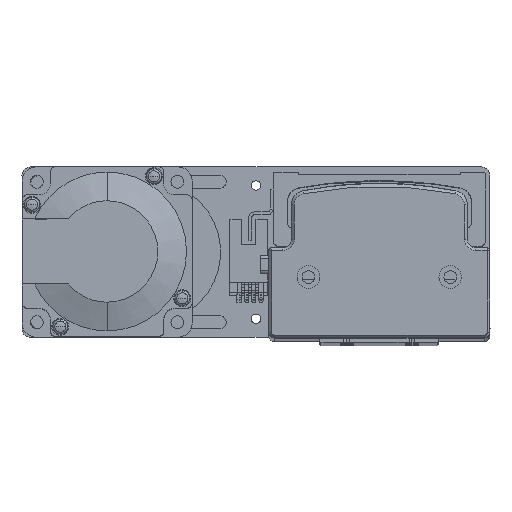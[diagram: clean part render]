
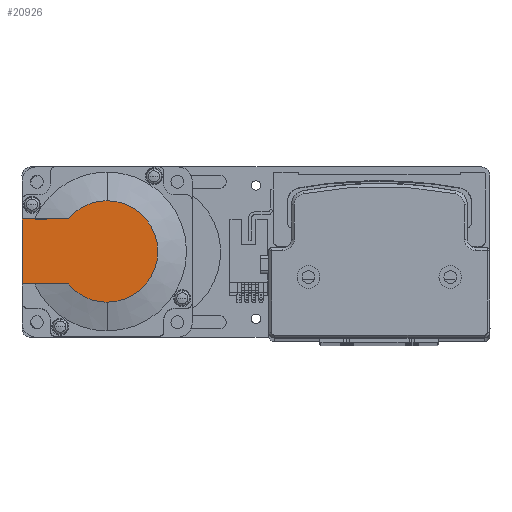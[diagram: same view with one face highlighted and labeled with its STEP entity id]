
A CAD part, top view. The second image highlights one B-rep face of the part: STEP entity #20926.
In plain terms, the highlighted planar face has unit normal (0, 0, 1) as drawn and (-1, 0, 0) by its records, which use the part's own axes.
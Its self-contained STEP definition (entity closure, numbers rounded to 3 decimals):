
#338 = CARTESIAN_POINT ( 'NONE',  ( -118.5, 30., 25. ) ) ;
#349 = AXIS2_PLACEMENT_3D ( 'NONE', #10441, #37283, #14281 ) ;
#701 = CIRCLE ( 'NONE', #43090, 17.881 ) ;
#1658 = CARTESIAN_POINT ( 'NONE',  ( -118.5, 13.735, -11.45 ) ) ;
#1947 = ORIENTED_EDGE ( 'NONE', *, *, #4487, .T. ) ;
#2421 = EDGE_CURVE ( 'NONE', #15849, #32418, #701, .T. ) ;
#2842 = DIRECTION ( 'NONE',  ( 0., 0., -1. ) ) ;
#4068 = AXIS2_PLACEMENT_3D ( 'NONE', #48868, #25843, #2842 ) ;
#4169 = VECTOR ( 'NONE', #7105, 1000. ) ;
#4487 = EDGE_CURVE ( 'NONE', #32418, #28822, #17335, .T. ) ;
#4646 = ORIENTED_EDGE ( 'NONE', *, *, #25140, .F. ) ;
#5339 = ORIENTED_EDGE ( 'NONE', *, *, #6171, .T. ) ;
#5460 = VECTOR ( 'NONE', #38320, 1000. ) ;
#6171 = EDGE_CURVE ( 'NONE', #33253, #15849, #15688, .T. ) ;
#7105 = DIRECTION ( 'NONE',  ( 0., -1., 0. ) ) ;
#7414 = VECTOR ( 'NONE', #11967, 1000. ) ;
#9290 = CARTESIAN_POINT ( 'NONE',  ( -118.5, 30., -11.45 ) ) ;
#10441 = CARTESIAN_POINT ( 'NONE',  ( -118.5, 0., 0. ) ) ;
#10821 = DIRECTION ( 'NONE',  ( -1., 0., 0. ) ) ;
#11967 = DIRECTION ( 'NONE',  ( 0., 0., 1. ) ) ;
#13197 = CARTESIAN_POINT ( 'NONE',  ( -118.5, 13.735, 11.45 ) ) ;
#13449 = CARTESIAN_POINT ( 'NONE',  ( -118.5, 0., 0. ) ) ;
#13820 = AXIS2_PLACEMENT_3D ( 'NONE', #33832, #10821, #37656 ) ;
#13930 = EDGE_CURVE ( 'NONE', #28822, #33536, #38447, .T. ) ;
#14281 = DIRECTION ( 'NONE',  ( 0., 0., -1. ) ) ;
#14865 = CARTESIAN_POINT ( 'NONE',  ( -118.5, 30., 11.45 ) ) ;
#15688 = LINE ( 'NONE', #22874, #5460 ) ;
#15849 = VERTEX_POINT ( 'NONE', #1658 ) ;
#17324 = DIRECTION ( 'NONE',  ( 0., 0., -1. ) ) ;
#17335 = CIRCLE ( 'NONE', #4068, 17.881 ) ;
#17696 = LINE ( 'NONE', #338, #7414 ) ;
#20926 = ADVANCED_FACE ( 'NONE', ( #37562 ), #33669, .T. ) ;
#22874 = CARTESIAN_POINT ( 'NONE',  ( -118.5, -8.941, -11.45 ) ) ;
#24267 = EDGE_CURVE ( 'NONE', #33253, #30539, #17696, .T. ) ;
#25140 = EDGE_CURVE ( 'NONE', #30539, #33536, #43876, .T. ) ;
#25843 = DIRECTION ( 'NONE',  ( -1., 0., 0. ) ) ;
#28822 = VERTEX_POINT ( 'NONE', #41295 ) ;
#30539 = VERTEX_POINT ( 'NONE', #14865 ) ;
#30629 = ORIENTED_EDGE ( 'NONE', *, *, #13930, .T. ) ;
#32418 = VERTEX_POINT ( 'NONE', #42307 ) ;
#33253 = VERTEX_POINT ( 'NONE', #9290 ) ;
#33536 = VERTEX_POINT ( 'NONE', #13197 ) ;
#33669 = PLANE ( 'NONE',  #13820 ) ;
#33832 = CARTESIAN_POINT ( 'NONE',  ( -118.5, -8.941, 0. ) ) ;
#34013 = CARTESIAN_POINT ( 'NONE',  ( -118.5, 0., 11.45 ) ) ;
#35107 = ORIENTED_EDGE ( 'NONE', *, *, #2421, .T. ) ;
#37283 = DIRECTION ( 'NONE',  ( -1., 0., 0. ) ) ;
#37562 = FACE_OUTER_BOUND ( 'NONE', #43120, .T. ) ;
#37656 = DIRECTION ( 'NONE',  ( 0., 0., 1. ) ) ;
#38320 = DIRECTION ( 'NONE',  ( 0., -1., 0. ) ) ;
#38447 = CIRCLE ( 'NONE', #349, 17.881 ) ;
#40336 = DIRECTION ( 'NONE',  ( -1., 0., 0. ) ) ;
#41295 = CARTESIAN_POINT ( 'NONE',  ( -118.5, 0., 17.881 ) ) ;
#42307 = CARTESIAN_POINT ( 'NONE',  ( -118.5, 0., -17.881 ) ) ;
#43090 = AXIS2_PLACEMENT_3D ( 'NONE', #13449, #40336, #17324 ) ;
#43120 = EDGE_LOOP ( 'NONE', ( #5339, #35107, #1947, #30629, #4646, #45130 ) ) ;
#43876 = LINE ( 'NONE', #34013, #4169 ) ;
#45130 = ORIENTED_EDGE ( 'NONE', *, *, #24267, .F. ) ;
#48868 = CARTESIAN_POINT ( 'NONE',  ( -118.5, 0., 0. ) ) ;
